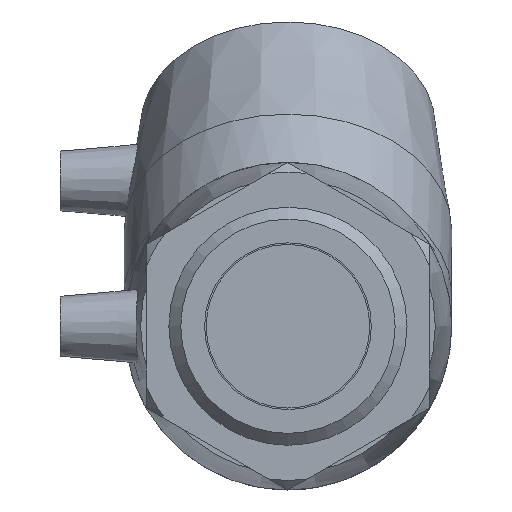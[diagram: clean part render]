
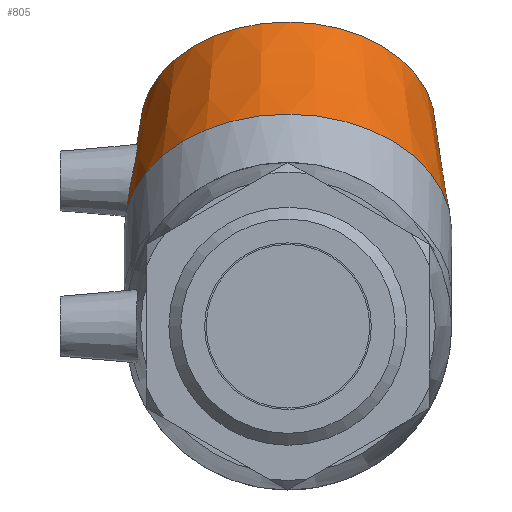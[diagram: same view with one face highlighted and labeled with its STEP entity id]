
A CAD part, left-side view. The second image highlights one B-rep face of the part: STEP entity #805.
In plain terms, the highlighted conical face has half-angle 6.366 degrees and reference radius 38.95 mm.
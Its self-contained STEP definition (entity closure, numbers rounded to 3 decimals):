
#15=B_SPLINE_CURVE_WITH_KNOTS('',3,(#1435,#1436,#1437,#1438,#1439,#1440,
#1441,#1442,#1443,#1444,#1445,#1446,#1447,#1448,#1449,#1450,#1451,#1452,
#1453,#1454,#1455,#1456,#1457,#1458,#1459,#1460,#1461,#1462,#1463,#1464,
#1465,#1466,#1467,#1468),.UNSPECIFIED.,.T.,.F.,(4,2,2,2,2,2,2,2,2,2,2,2,
2,2,2,2,4),(0.,0.337,0.674,1.013,1.352,
1.691,2.03,2.367,2.704,3.061,
3.419,3.769,4.119,4.47,4.82,
5.177,5.535),.UNSPECIFIED.);
#146=FACE_BOUND('',#294,.T.);
#147=FACE_BOUND('',#295,.T.);
#209=FACE_OUTER_BOUND('',#293,.T.);
#293=EDGE_LOOP('',(#709));
#294=EDGE_LOOP('',(#710));
#295=EDGE_LOOP('',(#711));
#357=CIRCLE('',#900,41.);
#361=CIRCLE('',#911,36.9);
#431=VERTEX_POINT('',#1430);
#432=VERTEX_POINT('',#1434);
#436=VERTEX_POINT('',#1480);
#527=EDGE_CURVE('',#431,#431,#357,.T.);
#529=EDGE_CURVE('',#432,#432,#15,.T.);
#533=EDGE_CURVE('',#436,#436,#361,.T.);
#709=ORIENTED_EDGE('',*,*,#527,.F.);
#710=ORIENTED_EDGE('',*,*,#529,.T.);
#711=ORIENTED_EDGE('',*,*,#533,.T.);
#753=CONICAL_SURFACE('',#912,38.95,6.366);
#805=ADVANCED_FACE('',(#209,#146,#147),#753,.T.);
#900=AXIS2_PLACEMENT_3D('',#1431,#1111,#1112);
#911=AXIS2_PLACEMENT_3D('',#1481,#1133,#1134);
#912=AXIS2_PLACEMENT_3D('',#1482,#1135,#1136);
#1111=DIRECTION('center_axis',(-0.707,0.,
-0.707));
#1112=DIRECTION('ref_axis',(-0.707,0.,0.707));
#1133=DIRECTION('center_axis',(-0.707,0.,
-0.707));
#1134=DIRECTION('ref_axis',(-0.707,0.,0.707));
#1135=DIRECTION('center_axis',(-0.707,0.,
-0.707));
#1136=DIRECTION('ref_axis',(0.,1.,0.));
#1430=CARTESIAN_POINT('',(24.095,41.,24.095));
#1431=CARTESIAN_POINT('Origin',(24.095,0.,24.095));
#1434=CARTESIAN_POINT('',(43.09,37.934,30.133));
#1435=CARTESIAN_POINT('Ctrl Pts',(43.09,37.934,30.133));
#1436=CARTESIAN_POINT('Ctrl Pts',(43.859,37.813,30.943));
#1437=CARTESIAN_POINT('Ctrl Pts',(44.522,37.74,31.963));
#1438=CARTESIAN_POINT('Ctrl Pts',(45.382,37.705,34.187));
#1439=CARTESIAN_POINT('Ctrl Pts',(45.581,37.741,35.39));
#1440=CARTESIAN_POINT('Ctrl Pts',(45.54,37.838,37.641));
#1441=CARTESIAN_POINT('Ctrl Pts',(45.296,37.907,38.841));
#1442=CARTESIAN_POINT('Ctrl Pts',(44.354,38.009,41.05));
#1443=CARTESIAN_POINT('Ctrl Pts',(43.656,38.04,42.058));
#1444=CARTESIAN_POINT('Ctrl Pts',(42.058,38.04,43.656));
#1445=CARTESIAN_POINT('Ctrl Pts',(41.05,38.009,44.354));
#1446=CARTESIAN_POINT('Ctrl Pts',(38.841,37.907,45.296));
#1447=CARTESIAN_POINT('Ctrl Pts',(37.641,37.838,45.54));
#1448=CARTESIAN_POINT('Ctrl Pts',(35.39,37.741,45.581));
#1449=CARTESIAN_POINT('Ctrl Pts',(34.187,37.705,45.382));
#1450=CARTESIAN_POINT('Ctrl Pts',(31.963,37.74,44.522));
#1451=CARTESIAN_POINT('Ctrl Pts',(30.943,37.813,43.859));
#1452=CARTESIAN_POINT('Ctrl Pts',(29.274,38.063,42.275));
#1453=CARTESIAN_POINT('Ctrl Pts',(28.539,38.261,41.235));
#1454=CARTESIAN_POINT('Ctrl Pts',(27.566,38.729,38.953));
#1455=CARTESIAN_POINT('Ctrl Pts',(27.328,38.995,37.711));
#1456=CARTESIAN_POINT('Ctrl Pts',(27.326,39.452,35.396));
#1457=CARTESIAN_POINT('Ctrl Pts',(27.555,39.674,34.169));
#1458=CARTESIAN_POINT('Ctrl Pts',(28.493,39.981,31.898));
#1459=CARTESIAN_POINT('Ctrl Pts',(29.204,40.064,30.855));
#1460=CARTESIAN_POINT('Ctrl Pts',(30.855,40.064,29.204));
#1461=CARTESIAN_POINT('Ctrl Pts',(31.898,39.981,28.493));
#1462=CARTESIAN_POINT('Ctrl Pts',(34.169,39.674,27.555));
#1463=CARTESIAN_POINT('Ctrl Pts',(35.396,39.452,27.326));
#1464=CARTESIAN_POINT('Ctrl Pts',(37.711,38.995,27.328));
#1465=CARTESIAN_POINT('Ctrl Pts',(38.953,38.729,27.566));
#1466=CARTESIAN_POINT('Ctrl Pts',(41.235,38.261,28.539));
#1467=CARTESIAN_POINT('Ctrl Pts',(42.275,38.063,29.274));
#1468=CARTESIAN_POINT('Ctrl Pts',(43.09,37.934,30.133));
#1480=CARTESIAN_POINT('',(50.082,36.9,50.082));
#1481=CARTESIAN_POINT('Origin',(50.082,0.,50.082));
#1482=CARTESIAN_POINT('Origin',(37.089,0.,
37.089));
